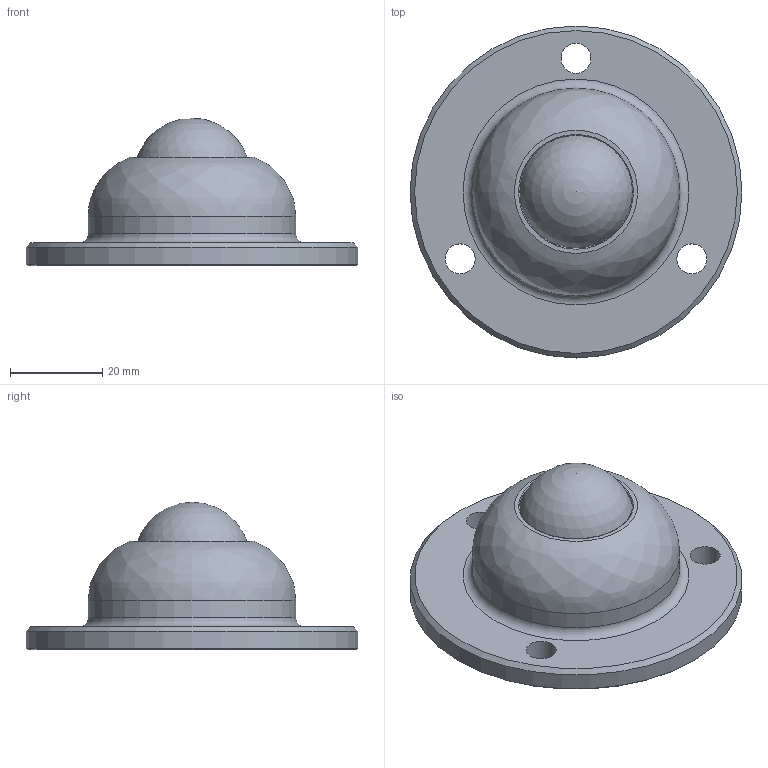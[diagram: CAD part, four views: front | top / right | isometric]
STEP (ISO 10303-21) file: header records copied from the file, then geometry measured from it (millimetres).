
FILE_DESCRIPTION(/* description */ (''),/* implementation_level */ '2;1');
FILE_NAME(/* name */ 'Z:\80-CAD共有ファイル\製品3D\X2\30C730FC30BF\X0\\23-IA-R\IA-25R.stp',/* time_stamp */ '2015-01-06T16:12:32+09:00',/* author */ ('yamaki'),/* organization */ (''),/* preprocessor_version */ 'ST-DEVELOPER v15.6',/* originating_system */ 'Autodesk Inventor 2015',/* authorisation */ '');
FILE_SCHEMA (('AUTOMOTIVE_DESIGN { 1 0 10303 214 3 1 1 }'));
Length unit declared in the file: millimetre
Products named in the file (1): 2325AA
Bounding box: 72 x 72 x 32 mm (x, y, z)
Volume: 44988.1 mm3; surface area: 13257.2 mm2
Topology: 1 solids, 1 shells, 40 faces, 92 edges, 60 vertices
Faces by surface type: cylinder 17, plane 11, cone 5, torus 4, sphere 2, bspline 1
Full cylindrical faces by diameter (mm): 2 x1, 2.5 x2, 6.5 x3, 24.5 x1, 26 x1, 26.5 x1, 36.3 x1, 45 x1, 72 x1
Entity records: 1059 total; most frequent: DIRECTION 186, CARTESIAN_POINT 180, ORIENTED_EDGE 120, AXIS2_PLACEMENT_3D 87, EDGE_LOOP 75, EDGE_CURVE 60, VERTEX_POINT 51, CIRCLE 47
